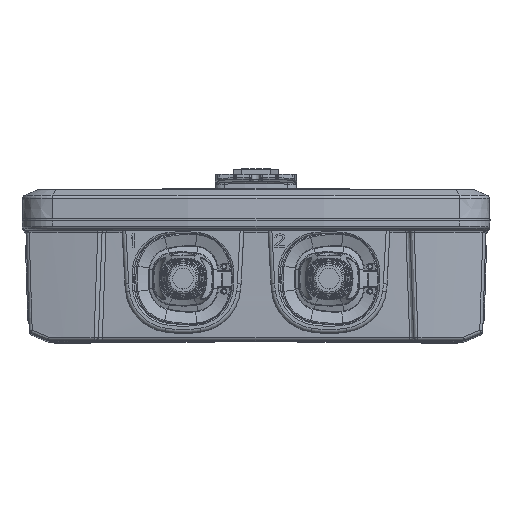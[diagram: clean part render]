
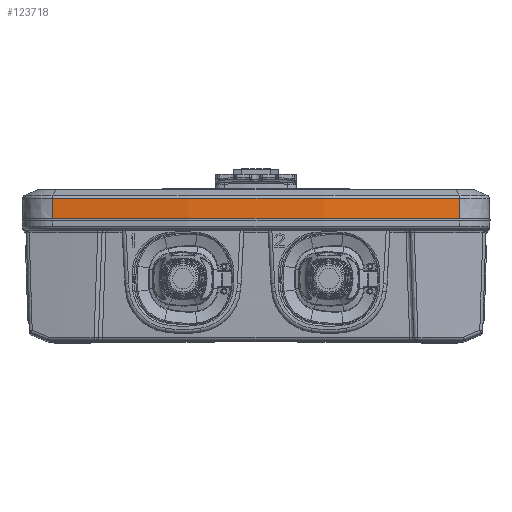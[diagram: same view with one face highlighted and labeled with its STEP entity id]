
A CAD part, top view. The second image highlights one B-rep face of the part: STEP entity #123718.
In plain terms, the highlighted conical face has half-angle 2 degrees and reference radius 299.904 mm.
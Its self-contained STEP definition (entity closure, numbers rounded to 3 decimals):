
#168=CARTESIAN_POINT('',(0.,0.,-172.5));
#169=DIRECTION('',(0.,1.,0.));
#170=DIRECTION('',(-0.181,0.,0.983));
#171=AXIS2_PLACEMENT_3D('',#168,#169,#170);
#290=CARTESIAN_POINT('',(0.,5.468,-172.5));
#291=DIRECTION('',(0.,-1.,0.));
#292=DIRECTION('',(0.181,0.,0.983));
#293=AXIS2_PLACEMENT_3D('',#290,#291,#292);
#298=DIRECTION('',(0.006,0.999,-0.034));
#299=VECTOR('',#298,5.471);
#300=CARTESIAN_POINT('',(-54.31,0.,122.543));
#301=LINE('',#300,#299);
#465=DIRECTION('',(-0.006,0.999,-0.034));
#466=VECTOR('',#465,5.471);
#467=CARTESIAN_POINT('',(54.31,0.,122.543));
#468=LINE('',#467,#466);
#118863=CARTESIAN_POINT('',(-54.31,0.,
122.543));
#118865=VERTEX_POINT('',#118863);
#118866=CARTESIAN_POINT('',(54.31,0.,
122.543));
#118868=VERTEX_POINT('',#118866);
#119007=CARTESIAN_POINT('',(54.276,5.468,
122.355));
#119009=VERTEX_POINT('',#119007);
#119014=CARTESIAN_POINT('',(-54.276,5.468,
122.355));
#119015=VERTEX_POINT('',#119014);
#123704=CARTESIAN_POINT('',(0.,2.734,-172.5));
#123705=DIRECTION('',(0.,-1.,0.));
#123706=DIRECTION('',(0.,0.,1.));
#123707=AXIS2_PLACEMENT_3D('',#123704,#123705,#123706);
#123708=CONICAL_SURFACE('',#123707,299.905,2.);
#123710=ORIENTED_EDGE('',*,*,#123709,.F.);
#123712=ORIENTED_EDGE('',*,*,#123711,.F.);
#123713=ORIENTED_EDGE('',*,*,#123616,.F.);
#123715=ORIENTED_EDGE('',*,*,#123714,.T.);
#123716=EDGE_LOOP('',(#123710,#123712,#123713,#123715));
#123717=FACE_OUTER_BOUND('',#123716,.F.);
#172=CIRCLE('',#171,300.);
#294=CIRCLE('',#293,299.809);
#123616=EDGE_CURVE('',#118865,#118868,#172,.T.);
#123709=EDGE_CURVE('',#119009,#119015,#294,.T.);
#123711=EDGE_CURVE('',#118868,#119009,#468,.T.);
#123714=EDGE_CURVE('',#118865,#119015,#301,.T.);
#123718=ADVANCED_FACE('',(#123717),#123708,.T.);
